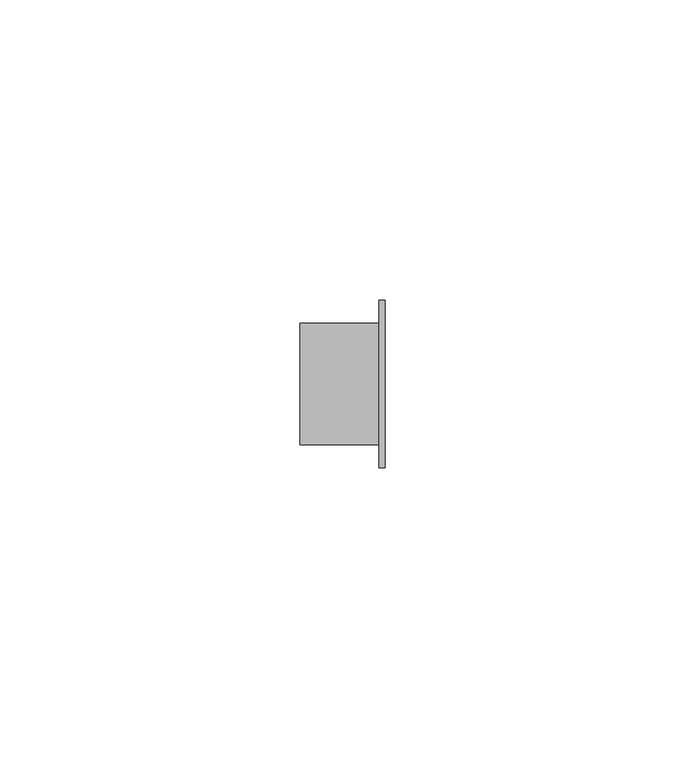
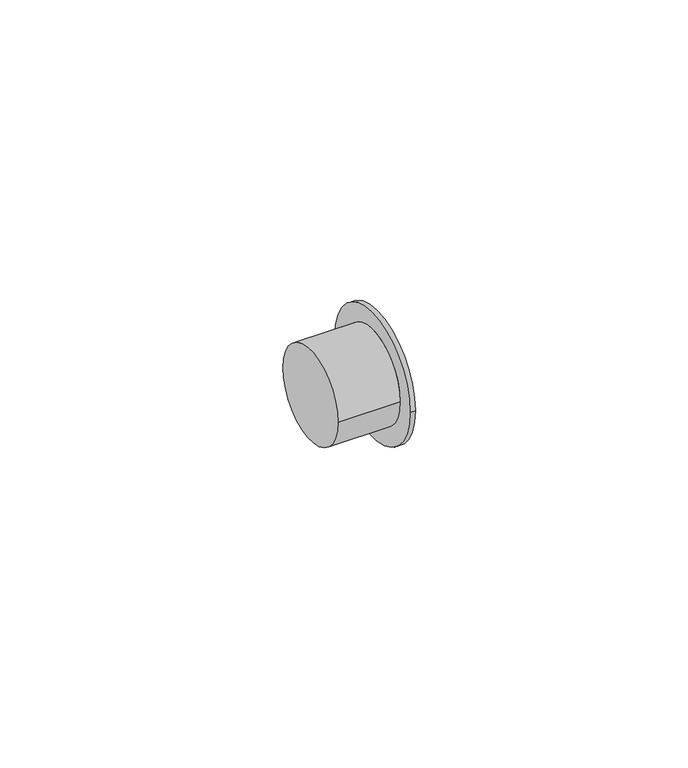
"""IFC4 building model written with IfcOpenShell, lengths in millimetres: pipe fitting geometry, Bucha de redução reta - Soldada - CU : Padrão."""

from ifc_helpers import new_model, si_unit, frame, origin, place, context, project, spatial, circle_curve, source, transform, mapped, element, save
from ifc_brep_helpers import plane_surface, cylinder_surface, advanced_brep


def pipe_fitting_48ecef6c(model_context):
    return source(origin(), model_context, "Body", "AdvancedBrep", [
        advanced_brep(
        [(0.0, -10.1155, 0.0), (0.0, 10.1155, 0.0), (13.1535, -10.1155, 0.0), (13.1535, 10.1155, 0.0), (14.1535, -13.97, 0.0), (14.1535, 13.97, 0.0), (13.1535, 13.97, 0.0), (13.1535, -13.97, 0.0)],
        [
            (0, 1, circle_curve(frame((0.0, 0.0, 0.0), z_axis=(-1.0, 0.0, 0.0), x_axis=(0.0, 1.0, 0.0)), 10.1155)),
            (1, 0, circle_curve(frame((0.0, 0.0, 0.0), z_axis=(-1.0, 0.0, 0.0), x_axis=(0.0, 1.0, 0.0)), 10.1155)),
            (0, 2),
            (2, 3, circle_curve(frame((13.1535, 0.0, 0.0), z_axis=(-1.0, 0.0, 0.0), x_axis=(0.0, 1.0, 0.0)), 10.1155)),
            (3, 1),
            (3, 2, circle_curve(frame((13.1535, 0.0, 0.0), z_axis=(-1.0, 0.0, 0.0), x_axis=(0.0, 1.0, 0.0)), 10.1155)),
            (4, 5, circle_curve(frame((14.1535, 0.0, 0.0), z_axis=(1.0, 0.0, 0.0), x_axis=(0.0, 1.0, 0.0)), 13.97)),
            (5, 4, circle_curve(frame((14.1535, 0.0, 0.0), z_axis=(1.0, 0.0, 0.0), x_axis=(0.0, 1.0, 0.0)), 13.97)),
            (6, 7, circle_curve(frame((13.1535, 0.0, 0.0), z_axis=(1.0, 0.0, 0.0), x_axis=(0.0, 1.0, 0.0)), 13.97)),
            (7, 4),
            (5, 6),
            (7, 6, circle_curve(frame((13.1535, 0.0, 0.0), z_axis=(1.0, 0.0, 0.0), x_axis=(0.0, 1.0, 0.0)), 13.97)),
        ],
        [
            plane_surface(frame((0.0, 0.0, 0.0), z_axis=(-1.0, 0.0, 0.0), x_axis=(0.0, 0.0, 1.0))),
            cylinder_surface(frame((0.0, 0.0, 0.0), z_axis=(-1.0, 0.0, 0.0), x_axis=(0.0, 1.0, 0.0)), 10.1155),
            plane_surface(frame((14.1535, 0.0, 0.0), z_axis=(1.0, 0.0, 0.0), x_axis=(0.0, 0.0, 1.0))),
            cylinder_surface(frame((13.1535, 0.0, 0.0), z_axis=(-1.0, 0.0, 0.0), x_axis=(0.0, 1.0, 0.0)), 13.97),
            plane_surface(frame((13.1535, 0.0, 0.0), z_axis=(-1.0, 0.0, 0.0), x_axis=(0.0, 0.0, 1.0))),
        ],
        [
            (0, [[1, 2]]),
            (1, [[-1, 3, 4, 5]]),
            (1, [[-2, -5, 6, -3]]),
            (2, [[7, 8]]),
            (3, [[9, 10, -8, 11]]),
            (3, [[12, -11, -7, -10]]),
            (4, [[-9, -12], [-4, -6]]),
        ],
    ),
    ])


if __name__ == "__main__":
    model = new_model("IFC4")
    model_context = context("Model", 3, world=origin())
    ifc_project = project(units=[si_unit("LENGTHUNIT", "METRE", prefix="MILLI")], contexts=[model_context])
    site = spatial("IfcSite", under=ifc_project)
    building = spatial("IfcBuilding", under=site)
    placement = place(None, origin())
    pipe_fitting_shape = pipe_fitting_48ecef6c(model_context)
    element("IfcPipeFitting", 1, ObjectType="Bucha de redução reta - Soldada - CU : Padrão", at=placement, inside=building, context=model_context, shape_type="MappedRepresentation", body=[
        mapped(pipe_fitting_shape, transform((0.0, 0.0, 0.0), x_axis=(1.0, 0.0, 0.0), y_axis=(0.0, 1.0, 0.0), z_axis=(0.0, 0.0, 1.0))),
    ])
    save(model, "model.ifc")
